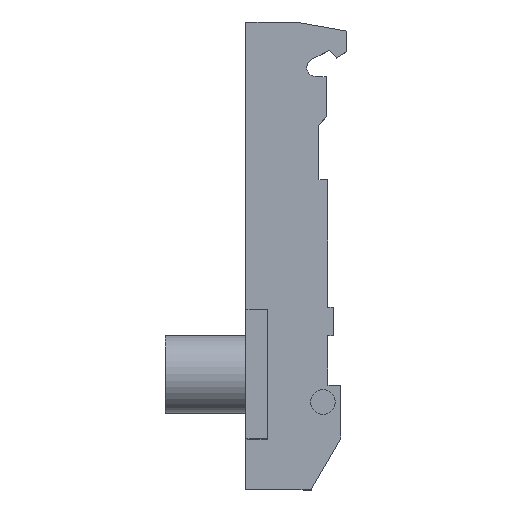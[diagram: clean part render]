
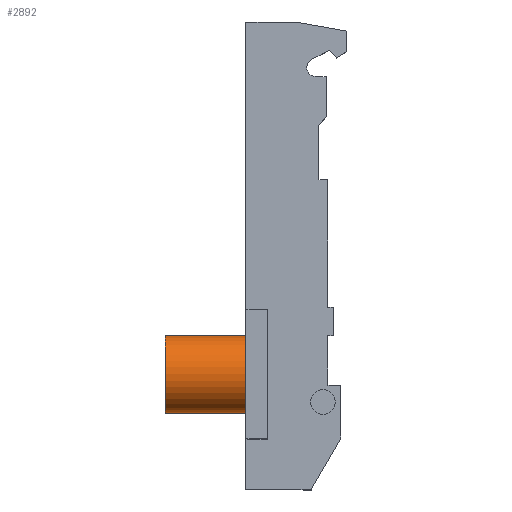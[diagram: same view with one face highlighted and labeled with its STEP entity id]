
A CAD part, top view. The second image highlights one B-rep face of the part: STEP entity #2892.
In plain terms, the highlighted cylindrical face has radius 5.35 mm (diameter 10.7 mm), a partial arc.
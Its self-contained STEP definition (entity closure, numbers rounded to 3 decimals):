
#43 = EDGE_CURVE ( 'NONE', #2906, #2904, #2664, .T. ) ;
#63 = EDGE_CURVE ( 'NONE', #2904, #3069, #2628, .T. ) ;
#80 = EDGE_CURVE ( 'NONE', #2906, #3081, #788, .T. ) ;
#158 = EDGE_CURVE ( 'NONE', #3081, #3069, #651, .T. ) ;
#217 = DIRECTION ( 'NONE',  ( 0., 1., 0. ) ) ;
#218 = DIRECTION ( 'NONE',  ( -1., 0., 0. ) ) ;
#225 = CARTESIAN_POINT ( 'NONE',  ( 0., 0., 16. ) ) ;
#261 = DIRECTION ( 'NONE',  ( 0., 1., 0. ) ) ;
#264 = CARTESIAN_POINT ( 'NONE',  ( -11.2, 0., 16. ) ) ;
#270 = DIRECTION ( 'NONE',  ( -1., 0., 0. ) ) ;
#423 = FACE_OUTER_BOUND ( 'NONE', #2227, .T. ) ;
#427 = CYLINDRICAL_SURFACE ( 'NONE', #1678, 5.35 ) ;
#651 = LINE ( 'NONE', #1013, #657 ) ;
#657 = VECTOR ( 'NONE', #1006, 1000. ) ;
#788 = CIRCLE ( 'NONE', #1755, 5.35 ) ;
#1006 = DIRECTION ( 'NONE',  ( 1., 0., 0. ) ) ;
#1013 = CARTESIAN_POINT ( 'NONE',  ( -11.2, 5.35, 16. ) ) ;
#1100 = CARTESIAN_POINT ( 'NONE',  ( 0., 5.35, 16. ) ) ;
#1124 = CARTESIAN_POINT ( 'NONE',  ( -11.2, 5.35, 16. ) ) ;
#1171 = DIRECTION ( 'NONE',  ( 0., -1., 0. ) ) ;
#1174 = DIRECTION ( 'NONE',  ( 1., 0., 0. ) ) ;
#1216 = CARTESIAN_POINT ( 'NONE',  ( -11.2, 0., 16. ) ) ;
#1287 = CARTESIAN_POINT ( 'NONE',  ( -11.2, -5.35, 16. ) ) ;
#1293 = CARTESIAN_POINT ( 'NONE',  ( 0., -5.35, 16. ) ) ;
#1618 = AXIS2_PLACEMENT_3D ( 'NONE', #225, #218, #217 ) ;
#1678 = AXIS2_PLACEMENT_3D ( 'NONE', #1216, #1174, #1171 ) ;
#1755 = AXIS2_PLACEMENT_3D ( 'NONE', #264, #270, #261 ) ;
#1897 = CARTESIAN_POINT ( 'NONE',  ( -11.2, -5.35, 16. ) ) ;
#1912 = DIRECTION ( 'NONE',  ( 1., 0., 0. ) ) ;
#2227 = EDGE_LOOP ( 'NONE', ( #2241, #2285, #2428, #2638 ) ) ;
#2241 = ORIENTED_EDGE ( 'NONE', *, *, #158, .F. ) ;
#2285 = ORIENTED_EDGE ( 'NONE', *, *, #80, .F. ) ;
#2428 = ORIENTED_EDGE ( 'NONE', *, *, #43, .T. ) ;
#2628 = CIRCLE ( 'NONE', #1618, 5.35 ) ;
#2638 = ORIENTED_EDGE ( 'NONE', *, *, #63, .T. ) ;
#2644 = VECTOR ( 'NONE', #1912, 1000. ) ;
#2664 = LINE ( 'NONE', #1897, #2644 ) ;
#2892 = ADVANCED_FACE ( 'NONE', ( #423 ), #427, .T. ) ;
#2904 = VERTEX_POINT ( 'NONE', #1293 ) ;
#2906 = VERTEX_POINT ( 'NONE', #1287 ) ;
#3069 = VERTEX_POINT ( 'NONE', #1100 ) ;
#3081 = VERTEX_POINT ( 'NONE', #1124 ) ;
